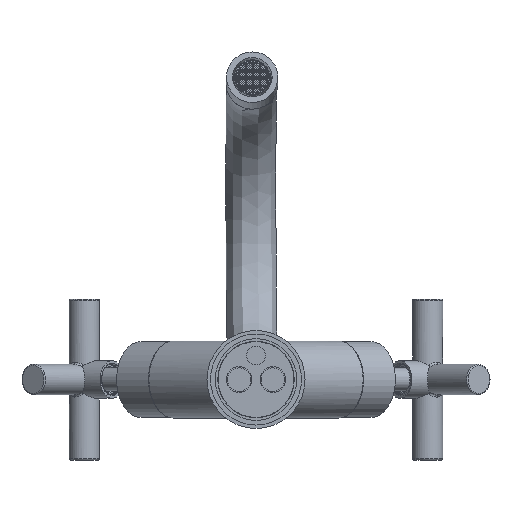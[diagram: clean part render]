
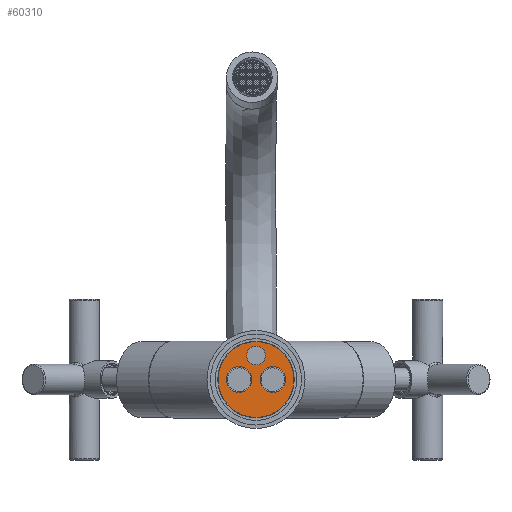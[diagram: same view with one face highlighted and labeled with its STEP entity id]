
A CAD part, front view. The second image highlights one B-rep face of the part: STEP entity #60310.
In plain terms, the highlighted planar face has unit normal (0, -1, 0).
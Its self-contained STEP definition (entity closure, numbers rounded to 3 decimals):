
#621=CIRCLE('',#63755,16.25);
#622=CIRCLE('',#63756,16.25);
#623=CIRCLE('',#63758,5.5);
#624=CIRCLE('',#63759,5.5);
#625=CIRCLE('',#63760,5.5);
#626=CIRCLE('',#63761,5.5);
#627=CIRCLE('',#63762,4.);
#628=CIRCLE('',#63763,4.);
#5230=FACE_BOUND('',#10203,.T.);
#5231=FACE_BOUND('',#10204,.T.);
#5232=FACE_BOUND('',#10205,.T.);
#7013=FACE_OUTER_BOUND('',#10202,.T.);
#10202=EDGE_LOOP('',(#41442,#41443));
#10203=EDGE_LOOP('',(#41444,#41445));
#10204=EDGE_LOOP('',(#41446,#41447));
#10205=EDGE_LOOP('',(#41448,#41449));
#24025=VERTEX_POINT('',#128818);
#24026=VERTEX_POINT('',#128819);
#24027=VERTEX_POINT('',#128824);
#24028=VERTEX_POINT('',#128825);
#24029=VERTEX_POINT('',#128828);
#24030=VERTEX_POINT('',#128829);
#24031=VERTEX_POINT('',#128832);
#24032=VERTEX_POINT('',#128833);
#30725=EDGE_CURVE('',#24025,#24026,#621,.T.);
#30727=EDGE_CURVE('',#24026,#24025,#622,.T.);
#30728=EDGE_CURVE('',#24027,#24028,#623,.T.);
#30729=EDGE_CURVE('',#24028,#24027,#624,.T.);
#30730=EDGE_CURVE('',#24029,#24030,#625,.T.);
#30731=EDGE_CURVE('',#24030,#24029,#626,.T.);
#30732=EDGE_CURVE('',#24031,#24032,#627,.T.);
#30733=EDGE_CURVE('',#24032,#24031,#628,.T.);
#41442=ORIENTED_EDGE('',*,*,#30725,.F.);
#41443=ORIENTED_EDGE('',*,*,#30727,.F.);
#41444=ORIENTED_EDGE('',*,*,#30728,.F.);
#41445=ORIENTED_EDGE('',*,*,#30729,.F.);
#41446=ORIENTED_EDGE('',*,*,#30730,.F.);
#41447=ORIENTED_EDGE('',*,*,#30731,.F.);
#41448=ORIENTED_EDGE('',*,*,#30732,.F.);
#41449=ORIENTED_EDGE('',*,*,#30733,.F.);
#57454=PLANE('',#63757);
#60310=ADVANCED_FACE('',(#7013,#5230,#5231,#5232),#57454,.T.);
#63755=AXIS2_PLACEMENT_3D('',#128820,#71790,#71791);
#63756=AXIS2_PLACEMENT_3D('',#128822,#71793,#71794);
#63757=AXIS2_PLACEMENT_3D('',#128823,#71795,#71796);
#63758=AXIS2_PLACEMENT_3D('',#128826,#71797,#71798);
#63759=AXIS2_PLACEMENT_3D('',#128827,#71799,#71800);
#63760=AXIS2_PLACEMENT_3D('',#128830,#71801,#71802);
#63761=AXIS2_PLACEMENT_3D('',#128831,#71803,#71804);
#63762=AXIS2_PLACEMENT_3D('',#128834,#71805,#71806);
#63763=AXIS2_PLACEMENT_3D('',#128835,#71807,#71808);
#71790=DIRECTION('center_axis',(0.,1.,0.));
#71791=DIRECTION('ref_axis',(0.,0.,
1.));
#71793=DIRECTION('center_axis',(0.,1.,0.));
#71794=DIRECTION('ref_axis',(0.,0.,
1.));
#71795=DIRECTION('center_axis',(0.,-1.,0.));
#71796=DIRECTION('ref_axis',(0.,0.,
-1.));
#71797=DIRECTION('center_axis',(0.,-1.,0.));
#71798=DIRECTION('ref_axis',(-1.,0.,0.));
#71799=DIRECTION('center_axis',(0.,-1.,0.));
#71800=DIRECTION('ref_axis',(-1.,0.,0.));
#71801=DIRECTION('center_axis',(0.,-1.,0.));
#71802=DIRECTION('ref_axis',(-1.,0.,0.));
#71803=DIRECTION('center_axis',(0.,-1.,0.));
#71804=DIRECTION('ref_axis',(-1.,0.,0.));
#71805=DIRECTION('center_axis',(0.,-1.,0.));
#71806=DIRECTION('ref_axis',(-1.,0.,0.));
#71807=DIRECTION('center_axis',(0.,-1.,0.));
#71808=DIRECTION('ref_axis',(-1.,0.,0.));
#128818=CARTESIAN_POINT('',(0.,4.5,-24.75));
#128819=CARTESIAN_POINT('',(0.,4.5,7.75));
#128820=CARTESIAN_POINT('Origin',(0.,4.5,-8.5));
#128822=CARTESIAN_POINT('Origin',(0.,4.5,-8.5));
#128823=CARTESIAN_POINT('Origin',(0.,4.5,-8.5));
#128824=CARTESIAN_POINT('',(-12.75,4.5,-8.5));
#128825=CARTESIAN_POINT('',(-1.75,4.5,-8.5));
#128826=CARTESIAN_POINT('Origin',(-7.25,4.5,-8.5));
#128827=CARTESIAN_POINT('Origin',(-7.25,4.5,-8.5));
#128828=CARTESIAN_POINT('',(1.75,4.5,-8.5));
#128829=CARTESIAN_POINT('',(12.75,4.5,-8.5));
#128830=CARTESIAN_POINT('Origin',(7.25,4.5,-8.5));
#128831=CARTESIAN_POINT('Origin',(7.25,4.5,-8.5));
#128832=CARTESIAN_POINT('',(-4.,4.5,1.75));
#128833=CARTESIAN_POINT('',(4.,4.5,1.75));
#128834=CARTESIAN_POINT('Origin',(0.,4.5,
1.75));
#128835=CARTESIAN_POINT('Origin',(0.,4.5,
1.75));
